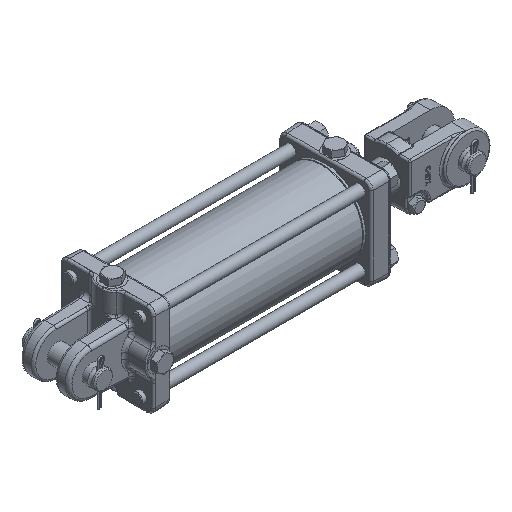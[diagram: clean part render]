
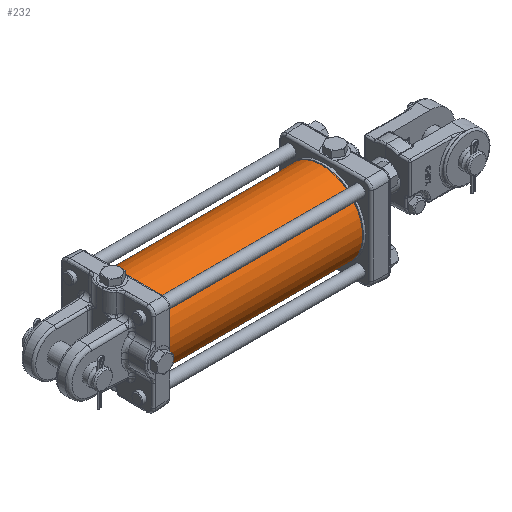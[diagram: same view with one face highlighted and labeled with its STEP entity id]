
A CAD part, isometric view. The second image highlights one B-rep face of the part: STEP entity #232.
In plain terms, the highlighted cylindrical face has radius 55.562 mm (diameter 111.125 mm), a full revolution.
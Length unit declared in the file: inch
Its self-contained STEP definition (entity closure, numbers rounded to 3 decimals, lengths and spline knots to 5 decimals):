
#118=CARTESIAN_POINT('',(0.,2.1875,0.0));
#119=VERTEX_POINT('',#118);
#120=CARTESIAN_POINT('',(0.,0.0,0.0));
#121=DIRECTION('',(1.0,0.0,0.0));
#122=DIRECTION('',(0.0,1.0,0.0));
#123=AXIS2_PLACEMENT_3D('',#120,#121,#122);
#124=CIRCLE('',#123,2.1875);
#125=EDGE_CURVE('',#119,#119,#124,.T.);
#206=CARTESIAN_POINT('',(-10.563,2.1875,0.0));
#207=VERTEX_POINT('',#206);
#208=CARTESIAN_POINT('',(-10.563,0.0,0.0));
#209=DIRECTION('',(1.0,0.0,0.0));
#210=DIRECTION('',(0.0,1.0,0.0));
#211=AXIS2_PLACEMENT_3D('',#208,#209,#210);
#212=CIRCLE('',#211,2.1875);
#213=EDGE_CURVE('',#207,#207,#212,.T.);
#221=CARTESIAN_POINT('',(-5.2815,0.0,0.0));
#222=DIRECTION('',(1.0,0.0,0.0));
#223=DIRECTION('',(0.0,1.0,0.0));
#224=AXIS2_PLACEMENT_3D('',#221,#222,#223);
#225=CYLINDRICAL_SURFACE('',#224,2.1875);
#226=ORIENTED_EDGE('',*,*,#125,.F.);
#227=EDGE_LOOP('',(#226));
#228=FACE_OUTER_BOUND('',#227,.T.);
#229=ORIENTED_EDGE('',*,*,#213,.T.);
#230=EDGE_LOOP('',(#229));
#231=FACE_BOUND('',#230,.T.);
#232=ADVANCED_FACE('',(#228,#231),#225,.T.);
